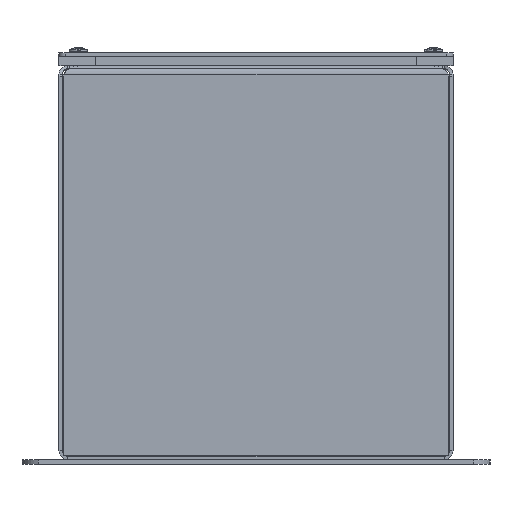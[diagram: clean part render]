
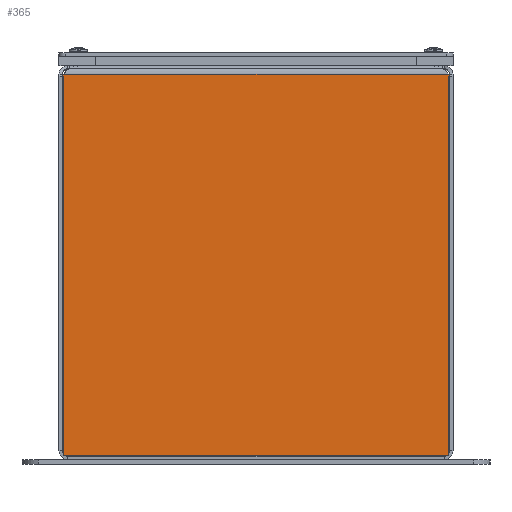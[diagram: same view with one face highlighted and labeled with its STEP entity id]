
A CAD part, left-side view. The second image highlights one B-rep face of the part: STEP entity #365.
In plain terms, the highlighted planar face has unit normal (-1, 0, 0) as drawn and (0, 1, 0) by its records, which use the part's own axes.
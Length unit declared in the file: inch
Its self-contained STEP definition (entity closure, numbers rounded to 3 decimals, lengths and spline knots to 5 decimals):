
#232 = VERTEX_POINT ( 'NONE', #6818 ) ;
#365 = ADVANCED_FACE ( 'NONE', ( #4570 ), #5886, .T. ) ;
#1678 = VECTOR ( 'NONE', #4092, 39.37008 ) ;
#1928 = CARTESIAN_POINT ( 'NONE',  ( -7.91686, 0., -3.91686 ) ) ;
#1994 = LINE ( 'NONE', #11381, #1678 ) ;
#2484 = VECTOR ( 'NONE', #3927, 39.37008 ) ;
#2560 = CARTESIAN_POINT ( 'NONE',  ( -7.91686, 0., 3.91686 ) ) ;
#2585 = ORIENTED_EDGE ( 'NONE', *, *, #11839, .T. ) ;
#2588 = LINE ( 'NONE', #1928, #9715 ) ;
#2597 = LINE ( 'NONE', #8789, #7331 ) ;
#2693 = CARTESIAN_POINT ( 'NONE',  ( -0.21551, 0., 3.91686 ) ) ;
#2882 = DIRECTION ( 'NONE',  ( 1., 0., 0. ) ) ;
#3144 = EDGE_CURVE ( 'NONE', #4197, #6377, #4981, .T. ) ;
#3927 = DIRECTION ( 'NONE',  ( 0., 0., -1. ) ) ;
#4015 = CARTESIAN_POINT ( 'NONE',  ( -0.179, 0., 3.90257 ) ) ;
#4092 = DIRECTION ( 'NONE',  ( 1., 0., 0. ) ) ;
#4197 = VERTEX_POINT ( 'NONE', #7443 ) ;
#4570 = FACE_OUTER_BOUND ( 'NONE', #6848, .T. ) ;
#4981 = LINE ( 'NONE', #4015, #2484 ) ;
#5170 = EDGE_CURVE ( 'NONE', #6975, #6886, #6289, .T. ) ;
#5886 = PLANE ( 'NONE',  #6639 ) ;
#5967 = CARTESIAN_POINT ( 'NONE',  ( -7.91686, 0., 3.91686 ) ) ;
#5980 = DIRECTION ( 'NONE',  ( 0., 1., 0. ) ) ;
#5981 = DIRECTION ( 'NONE',  ( 0., 0., 1. ) ) ;
#5997 = VECTOR ( 'NONE', #9982, 39.37008 ) ;
#6289 = LINE ( 'NONE', #2560, #5997 ) ;
#6377 = VERTEX_POINT ( 'NONE', #8035 ) ;
#6639 = AXIS2_PLACEMENT_3D ( 'NONE', #5967, #5980, #5981 ) ;
#6676 = EDGE_CURVE ( 'NONE', #232, #6377, #10366, .T. ) ;
#6818 = CARTESIAN_POINT ( 'NONE',  ( -0.21551, 0., -3.91686 ) ) ;
#6848 = EDGE_LOOP ( 'NONE', ( #2585, #10271, #8268, #8007, #7841, #7616 ) ) ;
#6886 = VERTEX_POINT ( 'NONE', #7749 ) ;
#6898 = CARTESIAN_POINT ( 'NONE',  ( -7.91686, 0., 3.91686 ) ) ;
#6975 = VERTEX_POINT ( 'NONE', #6898 ) ;
#7331 = VECTOR ( 'NONE', #9676, 39.37008 ) ;
#7443 = CARTESIAN_POINT ( 'NONE',  ( -0.179, 0., 3.90257 ) ) ;
#7616 = ORIENTED_EDGE ( 'NONE', *, *, #5170, .F. ) ;
#7696 = VECTOR ( 'NONE', #10238, 39.37008 ) ;
#7749 = CARTESIAN_POINT ( 'NONE',  ( -7.91686, 0., -3.91686 ) ) ;
#7841 = ORIENTED_EDGE ( 'NONE', *, *, #10929, .F. ) ;
#8007 = ORIENTED_EDGE ( 'NONE', *, *, #6676, .F. ) ;
#8035 = CARTESIAN_POINT ( 'NONE',  ( -0.179, 0., -3.90257 ) ) ;
#8268 = ORIENTED_EDGE ( 'NONE', *, *, #3144, .T. ) ;
#8460 = VERTEX_POINT ( 'NONE', #2693 ) ;
#8789 = CARTESIAN_POINT ( 'NONE',  ( -0.21551, 0., 3.91686 ) ) ;
#9676 = DIRECTION ( 'NONE',  ( -0.931, 0., 0.364 ) ) ;
#9715 = VECTOR ( 'NONE', #2882, 39.37008 ) ;
#9982 = DIRECTION ( 'NONE',  ( 0., 0., -1. ) ) ;
#10238 = DIRECTION ( 'NONE',  ( 0.931, 0., 0.364 ) ) ;
#10271 = ORIENTED_EDGE ( 'NONE', *, *, #10386, .F. ) ;
#10366 = LINE ( 'NONE', #11972, #7696 ) ;
#10386 = EDGE_CURVE ( 'NONE', #4197, #8460, #2597, .T. ) ;
#10929 = EDGE_CURVE ( 'NONE', #6886, #232, #2588, .T. ) ;
#11381 = CARTESIAN_POINT ( 'NONE',  ( -7.91686, 0., 3.91686 ) ) ;
#11839 = EDGE_CURVE ( 'NONE', #6975, #8460, #1994, .T. ) ;
#11972 = CARTESIAN_POINT ( 'NONE',  ( -0.179, 0., -3.90257 ) ) ;
